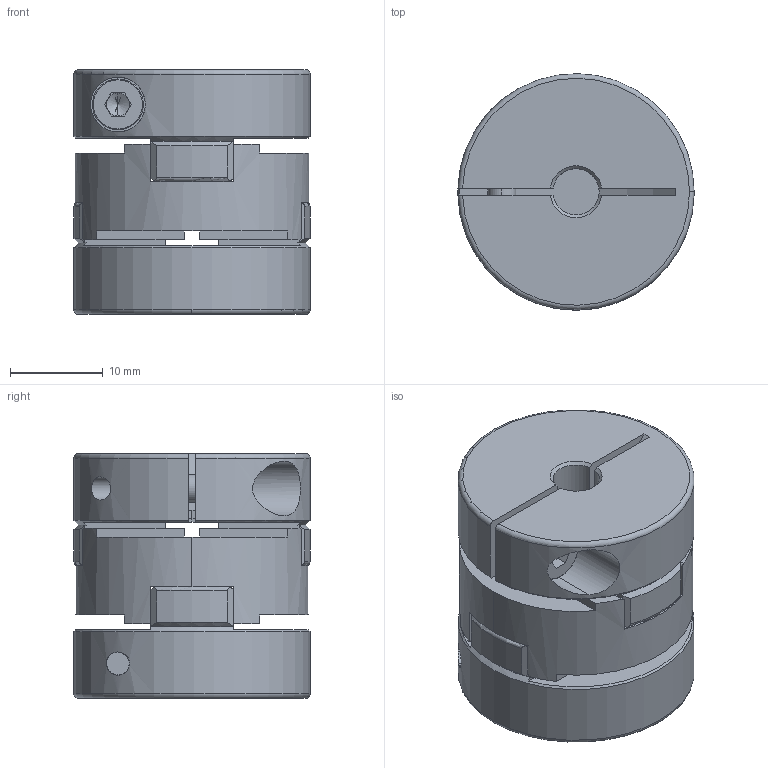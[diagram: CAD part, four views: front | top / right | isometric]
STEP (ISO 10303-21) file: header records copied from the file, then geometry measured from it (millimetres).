
FILE_DESCRIPTION (( 'STEP AP203' ), '1' );
FILE_NAME ('SOHM-25C-5X10_203.STEP', '2013-01-24T01:22:33', ( '' ), ( '' ), 'SwSTEP 2.0', 'SolidWorks 2012', '' );
FILE_SCHEMA (( 'CONFIG_CONTROL_DESIGN' ));
Length unit declared in the file: millimetre
Products named in the file (1): SOHM-25C-5X10_203
Bounding box: 25.5 x 25.5 x 26.4 mm (x, y, z)
Volume: 10350.7 mm3; surface area: 6115.7 mm2
Topology: 1 solids, 1 shells, 211 faces, 594 edges, 375 vertices
Faces by surface type: plane 104, cylinder 60, torus 24, cone 23
Entity records: 7308 total; most frequent: CARTESIAN_POINT 1794, ORIENTED_EDGE 1180, DIRECTION 1115, EDGE_CURVE 590, AXIS2_PLACEMENT_3D 412, VERTEX_POINT 375, LINE 291, VECTOR 291
